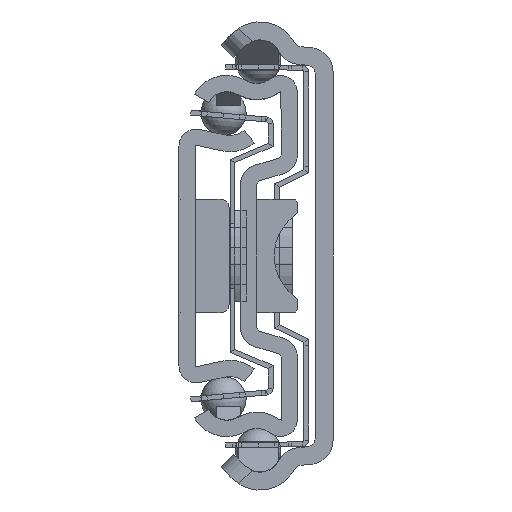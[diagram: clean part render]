
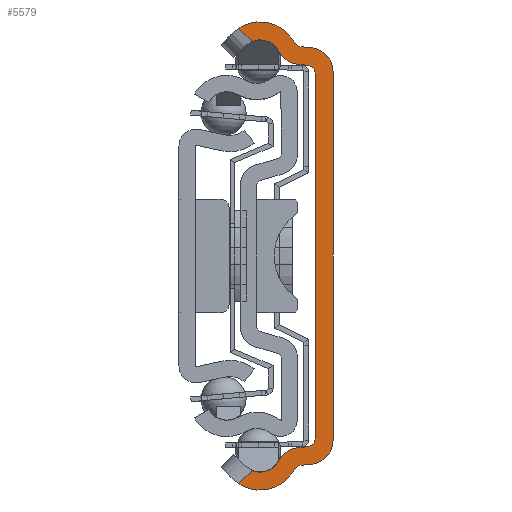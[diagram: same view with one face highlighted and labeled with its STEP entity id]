
A CAD part, left-side view. The second image highlights one B-rep face of the part: STEP entity #5579.
In plain terms, the highlighted planar face has unit normal (-1, 0, 0).
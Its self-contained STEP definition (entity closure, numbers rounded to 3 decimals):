
#1=DIRECTION('',(0.,0.717,-0.697));
#2=VECTOR('',#1,2.305);
#3=CARTESIAN_POINT('',(0.,9.972,-26.461));
#4=LINE('',#3,#2);
#5=CARTESIAN_POINT('',(0.,9.,-24.05));
#6=DIRECTION('',(-1.,0.,0.));
#7=DIRECTION('',(0.,0.374,-0.927));
#8=AXIS2_PLACEMENT_3D('',#5,#6,#7);
#10=CARTESIAN_POINT('',(0.,4.005,-26.582));
#11=DIRECTION('',(-1.,0.,0.));
#12=DIRECTION('',(0.,0.07,0.998));
#13=AXIS2_PLACEMENT_3D('',#10,#11,#12);
#15=DIRECTION('',(0.,-0.998,0.07));
#16=VECTOR('',#15,1.087);
#17=CARTESIAN_POINT('',(0.,4.214,-23.589));
#18=LINE('',#17,#16);
#19=DIRECTION('',(0.,0.,1.));
#20=VECTOR('',#19,45.032);
#21=CARTESIAN_POINT('',(0.,2.2,-22.516));
#22=LINE('',#21,#20);
#23=DIRECTION('',(0.,0.998,0.07));
#24=VECTOR('',#23,1.087);
#25=CARTESIAN_POINT('',(0.,3.13,23.514));
#26=LINE('',#25,#24);
#27=CARTESIAN_POINT('',(0.,4.005,26.582));
#28=DIRECTION('',(-1.,0.,0.));
#29=DIRECTION('',(0.,0.892,-0.452));
#30=AXIS2_PLACEMENT_3D('',#27,#28,#29);
#32=CARTESIAN_POINT('',(0.,9.,24.05));
#33=DIRECTION('',(-1.,0.,0.));
#34=DIRECTION('',(0.,-0.892,0.452));
#35=AXIS2_PLACEMENT_3D('',#32,#33,#34);
#37=DIRECTION('',(0.,-0.717,-0.697));
#38=VECTOR('',#37,2.305);
#39=CARTESIAN_POINT('',(0.,11.624,28.069));
#40=LINE('',#39,#38);
#41=CARTESIAN_POINT('',(0.,9.,24.05));
#42=DIRECTION('',(1.,0.,0.));
#43=DIRECTION('',(0.,0.547,0.837));
#44=AXIS2_PLACEMENT_3D('',#41,#42,#43);
#46=DIRECTION('',(0.,-0.998,-0.07));
#47=VECTOR('',#46,1.161);
#48=CARTESIAN_POINT('',(0.,3.949,25.776));
#49=LINE('',#48,#47);
#50=CARTESIAN_POINT('',(0.,3.,22.702));
#51=DIRECTION('',(-1.,0.,0.));
#52=DIRECTION('',(0.,-1.,0.));
#53=AXIS2_PLACEMENT_3D('',#50,#51,#52);
#55=DIRECTION('',(0.,0.,-1.));
#56=VECTOR('',#55,45.405);
#57=CARTESIAN_POINT('',(0.,0.,22.702));
#58=LINE('',#57,#56);
#59=CARTESIAN_POINT('',(0.,3.,-22.702));
#60=DIRECTION('',(-1.,0.,0.));
#61=DIRECTION('',(0.,-0.07,-0.998));
#62=AXIS2_PLACEMENT_3D('',#59,#60,#61);
#64=DIRECTION('',(0.,0.998,-0.07));
#65=VECTOR('',#64,1.161);
#66=CARTESIAN_POINT('',(0.,2.791,-25.695));
#67=LINE('',#66,#65);
#68=CARTESIAN_POINT('',(0.,9.,-24.05));
#69=DIRECTION('',(1.,0.,0.));
#70=DIRECTION('',(0.,-0.883,-0.47));
#71=AXIS2_PLACEMENT_3D('',#68,#69,#70);
#79=CARTESIAN_POINT('',(0.,11.624,-28.069));
#134=CARTESIAN_POINT('',(0.,9.972,-26.461));
#367=CARTESIAN_POINT('',(0.,11.624,28.069));
#373=CARTESIAN_POINT('',(0.,3.879,26.774));
#374=DIRECTION('',(1.,0.,0.));
#375=DIRECTION('',(0.,0.07,-0.998));
#376=AXIS2_PLACEMENT_3D('',#373,#374,#375);
#1379=CARTESIAN_POINT('',(0.,3.879,-26.774));
#1380=DIRECTION('',(1.,0.,0.));
#1381=DIRECTION('',(0.,0.883,0.47));
#1382=AXIS2_PLACEMENT_3D('',#1379,#1380,#1381);
#2454=CARTESIAN_POINT('',(0.,3.2,-22.516));
#2455=DIRECTION('',(1.,0.,0.));
#2456=DIRECTION('',(0.,-1.,0.));
#2457=AXIS2_PLACEMENT_3D('',#2454,#2455,#2456);
#2472=CARTESIAN_POINT('',(0.,3.2,22.516));
#2473=DIRECTION('',(1.,0.,0.));
#2474=DIRECTION('',(0.,-0.07,0.998));
#2475=AXIS2_PLACEMENT_3D('',#2472,#2473,#2474);
#2510=CARTESIAN_POINT('',(0.,9.972,26.461));
#4365=CARTESIAN_POINT('',(0.,2.2,-22.516));
#4367=VERTEX_POINT('',#4365);
#4369=CARTESIAN_POINT('',(0.,3.13,-23.514));
#4371=VERTEX_POINT('',#4369);
#4373=CARTESIAN_POINT('',(0.,3.13,23.514));
#4375=VERTEX_POINT('',#4373);
#4377=CARTESIAN_POINT('',(0.,2.2,22.516));
#4379=VERTEX_POINT('',#4377);
#4381=CARTESIAN_POINT('',(0.,3.949,25.776));
#4383=VERTEX_POINT('',#4381);
#4385=CARTESIAN_POINT('',(0.,4.762,26.304));
#4387=VERTEX_POINT('',#4385);
#4389=CARTESIAN_POINT('',(0.,4.762,-26.304));
#4391=VERTEX_POINT('',#4389);
#4393=CARTESIAN_POINT('',(0.,3.949,-25.776));
#4395=VERTEX_POINT('',#4393);
#4397=CARTESIAN_POINT('',(0.,4.214,-23.589));
#4398=CARTESIAN_POINT('',(0.,6.681,-25.226));
#4399=VERTEX_POINT('',#4397);
#4400=VERTEX_POINT('',#4398);
#4405=CARTESIAN_POINT('',(0.,6.681,25.226));
#4406=CARTESIAN_POINT('',(0.,4.214,23.589));
#4407=VERTEX_POINT('',#4405);
#4408=VERTEX_POINT('',#4406);
#4413=CARTESIAN_POINT('',(0.,0.,22.702));
#4414=CARTESIAN_POINT('',(0.,2.791,25.695));
#4415=VERTEX_POINT('',#4413);
#4416=VERTEX_POINT('',#4414);
#4421=CARTESIAN_POINT('',(0.,2.791,-25.695));
#4422=CARTESIAN_POINT('',(0.,0.,-22.702));
#4423=VERTEX_POINT('',#4421);
#4424=VERTEX_POINT('',#4422);
#5059=VERTEX_POINT('',#79);
#5067=VERTEX_POINT('',#134);
#5068=VERTEX_POINT('',#2510);
#5076=VERTEX_POINT('',#367);
#5532=CARTESIAN_POINT('',(0.,0.,0.));
#5533=DIRECTION('',(1.,0.,0.));
#5534=DIRECTION('',(0.,-1.,0.));
#5535=AXIS2_PLACEMENT_3D('',#5532,#5533,#5534);
#5536=PLANE('',#5535);
#5538=ORIENTED_EDGE('',*,*,#5537,.F.);
#5540=ORIENTED_EDGE('',*,*,#5539,.T.);
#5542=ORIENTED_EDGE('',*,*,#5541,.F.);
#5544=ORIENTED_EDGE('',*,*,#5543,.T.);
#5546=ORIENTED_EDGE('',*,*,#5545,.F.);
#5548=ORIENTED_EDGE('',*,*,#5547,.T.);
#5550=ORIENTED_EDGE('',*,*,#5549,.F.);
#5552=ORIENTED_EDGE('',*,*,#5551,.T.);
#5554=ORIENTED_EDGE('',*,*,#5553,.F.);
#5556=ORIENTED_EDGE('',*,*,#5555,.T.);
#5558=ORIENTED_EDGE('',*,*,#5557,.F.);
#5560=ORIENTED_EDGE('',*,*,#5559,.T.);
#5562=ORIENTED_EDGE('',*,*,#5561,.F.);
#5564=ORIENTED_EDGE('',*,*,#5563,.T.);
#5566=ORIENTED_EDGE('',*,*,#5565,.F.);
#5568=ORIENTED_EDGE('',*,*,#5567,.T.);
#5570=ORIENTED_EDGE('',*,*,#5569,.F.);
#5572=ORIENTED_EDGE('',*,*,#5571,.T.);
#5574=ORIENTED_EDGE('',*,*,#5573,.F.);
#5576=ORIENTED_EDGE('',*,*,#5575,.T.);
#5577=EDGE_LOOP('',(#5538,#5540,#5542,#5544,#5546,#5548,#5550,#5552,#5554,#5556,
#5558,#5560,#5562,#5564,#5566,#5568,#5570,#5572,#5574,#5576));
#5578=FACE_OUTER_BOUND('',#5577,.F.);
#9=CIRCLE('',#8,2.6);
#14=CIRCLE('',#13,3.);
#31=CIRCLE('',#30,3.);
#36=CIRCLE('',#35,2.6);
#45=CIRCLE('',#44,4.8);
#54=CIRCLE('',#53,3.);
#63=CIRCLE('',#62,3.);
#72=CIRCLE('',#71,4.8);
#377=CIRCLE('',#376,1.);
#1383=CIRCLE('',#1382,1.);
#2458=CIRCLE('',#2457,1.);
#2476=CIRCLE('',#2475,1.);
#5537=EDGE_CURVE('',#5067,#5059,#4,.T.);
#5539=EDGE_CURVE('',#5067,#4400,#9,.T.);
#5541=EDGE_CURVE('',#4399,#4400,#14,.T.);
#5543=EDGE_CURVE('',#4399,#4371,#18,.T.);
#5545=EDGE_CURVE('',#4367,#4371,#2458,.T.);
#5547=EDGE_CURVE('',#4367,#4379,#22,.T.);
#5549=EDGE_CURVE('',#4375,#4379,#2476,.T.);
#5551=EDGE_CURVE('',#4375,#4408,#26,.T.);
#5553=EDGE_CURVE('',#4407,#4408,#31,.T.);
#5555=EDGE_CURVE('',#4407,#5068,#36,.T.);
#5557=EDGE_CURVE('',#5076,#5068,#40,.T.);
#5559=EDGE_CURVE('',#5076,#4387,#45,.T.);
#5561=EDGE_CURVE('',#4383,#4387,#377,.T.);
#5563=EDGE_CURVE('',#4383,#4416,#49,.T.);
#5565=EDGE_CURVE('',#4415,#4416,#54,.T.);
#5567=EDGE_CURVE('',#4415,#4424,#58,.T.);
#5569=EDGE_CURVE('',#4423,#4424,#63,.T.);
#5571=EDGE_CURVE('',#4423,#4395,#67,.T.);
#5573=EDGE_CURVE('',#4391,#4395,#1383,.T.);
#5575=EDGE_CURVE('',#4391,#5059,#72,.T.);
#5579=ADVANCED_FACE('',(#5578),#5536,.F.);
